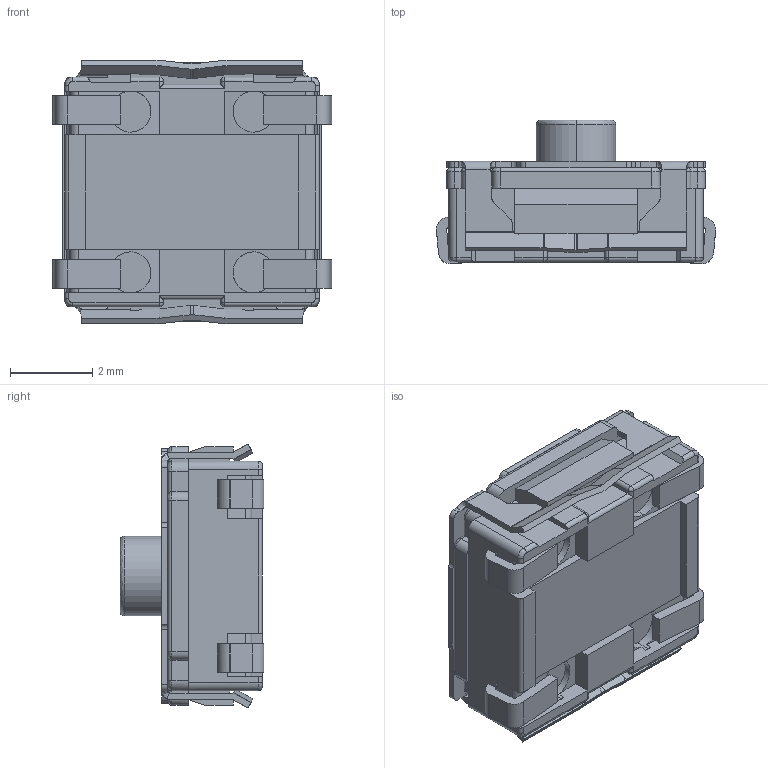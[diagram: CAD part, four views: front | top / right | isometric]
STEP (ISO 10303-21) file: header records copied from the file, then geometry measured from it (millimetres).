
FILE_DESCRIPTION (( 'STEP AP214' ), '1' );
FILE_NAME ('SKRACAE010.STEP', '2025-08-20T03:41:39', ( '' ), ( '' ), 'SwSTEP 2.0', 'SolidWorks 2023', '' );
FILE_SCHEMA (( 'AUTOMOTIVE_DESIGN' ));
Length unit declared in the file: millimetre
Products named in the file (1): SKRACAE010
Bounding box: 6.8 x 3.5 x 6.42 mm (x, y, z)
Volume: 85.8 mm3; surface area: 203.1 mm2
Topology: 1 solids, 2 shells, 412 faces, 1122 edges, 700 vertices
Faces by surface type: plane 206, cylinder 172, bspline 34
Entity records: 17999 total; most frequent: CARTESIAN_POINT 4499, ORIENTED_EDGE 2236, DIRECTION 1703, EDGE_CURVE 1118, LINE 719, VECTOR 719, VERTEX_POINT 700, AXIS2_PLACEMENT_3D 492
